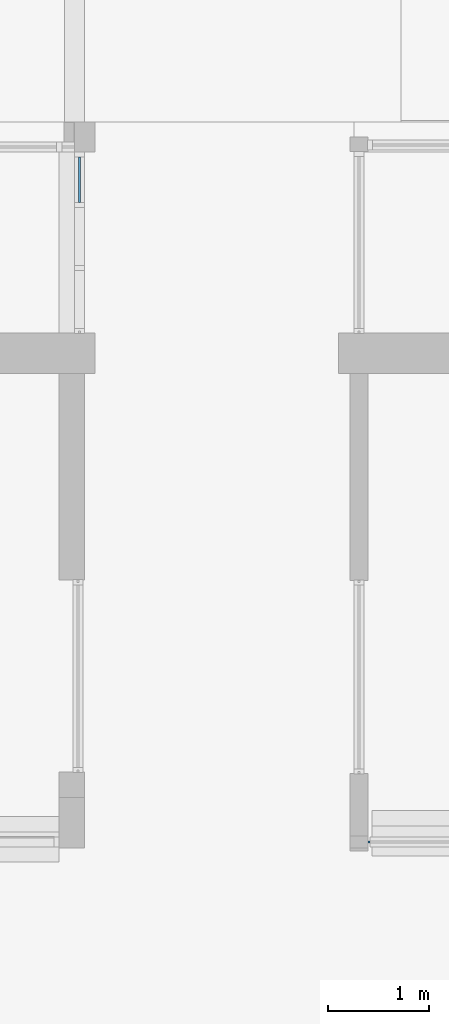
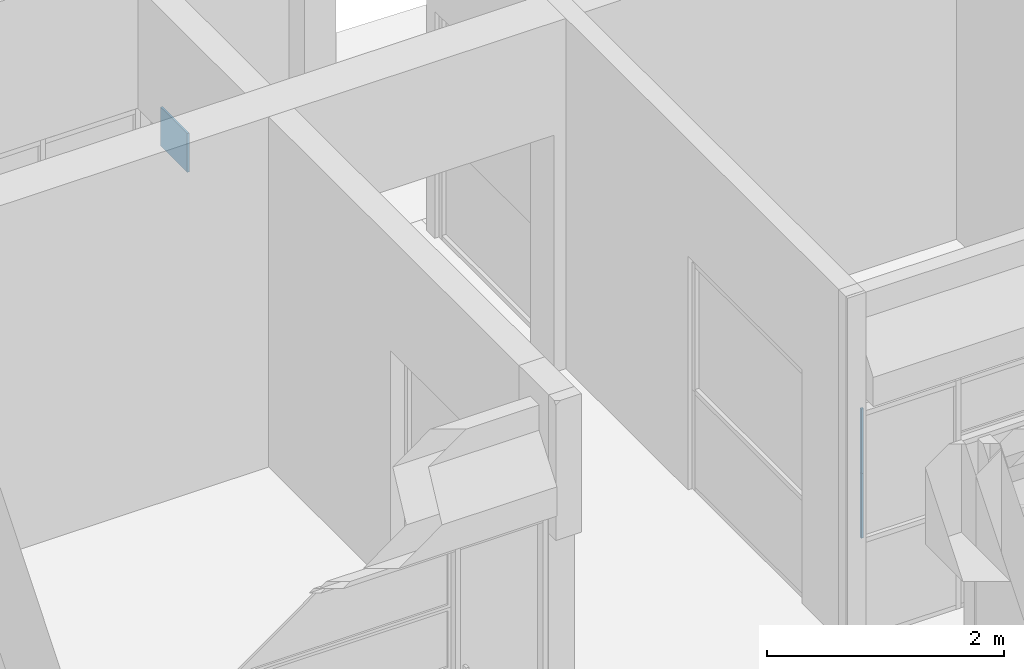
# One storey, part 48 of 117: 3 plates, 2 elements without a shape of their own.
"""IFC4 building model written with IfcOpenShell, lengths in metres."""

from ifc_helpers import new_model, entity, si_unit, converted_unit, derived_unit, direction, frame, origin, place, context, subcontext, project, spatial, indexed_curve, outline, extrude, source, transform, mapped, material, type_object, type_shapes, element, aggregate, save


model = new_model("IFC4")

# Units and contexts
model_context = context("Model", 3, precision=1e-05, world=origin(), true_north=direction((6.123031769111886e-17, 1.0)))
body_context = subcontext(model_context, "Body", "Model", "MODEL_VIEW")
ifc_project = project(units=[si_unit("LENGTHUNIT", "METRE"), si_unit("AREAUNIT", "SQUARE_METRE"), si_unit("VOLUMEUNIT", "CUBIC_METRE"), converted_unit("PLANEANGLEUNIT", "DEGREE", entity("IfcRatioMeasure", 0.017453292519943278), si_unit("PLANEANGLEUNIT", "RADIAN"), dimensions=[0, 0, 0, 0, 0, 0, 0]), si_unit("MASSUNIT", "GRAM", prefix="KILO"), derived_unit("MASSDENSITYUNIT", [(si_unit("MASSUNIT", "GRAM", prefix="KILO"), 1), (si_unit("LENGTHUNIT", "METRE"), -3)]), derived_unit("MOMENTOFINERTIAUNIT", [(si_unit("LENGTHUNIT", "METRE"), 4)]), si_unit("TIMEUNIT", "SECOND"), si_unit("FREQUENCYUNIT", "HERTZ"), si_unit("THERMODYNAMICTEMPERATUREUNIT", "DEGREE_CELSIUS"), derived_unit("THERMALTRANSMITTANCEUNIT", [(si_unit("MASSUNIT", "GRAM", prefix="KILO"), 1), (si_unit("THERMODYNAMICTEMPERATUREUNIT", "KELVIN"), -1), (si_unit("TIMEUNIT", "SECOND"), -3)]), derived_unit("VOLUMETRICFLOWRATEUNIT", [(si_unit("LENGTHUNIT", "METRE"), 3), (si_unit("TIMEUNIT", "SECOND"), -1)]), derived_unit("MASSFLOWRATEUNIT", [(si_unit("MASSUNIT", "GRAM", prefix="KILO"), 1), (si_unit("TIMEUNIT", "SECOND"), -1)]), derived_unit("ROTATIONALFREQUENCYUNIT", [(si_unit("TIMEUNIT", "SECOND"), -1)]), si_unit("ELECTRICCURRENTUNIT", "AMPERE"), si_unit("ELECTRICVOLTAGEUNIT", "VOLT"), si_unit("POWERUNIT", "WATT"), si_unit("FORCEUNIT", "NEWTON", prefix="KILO"), si_unit("ILLUMINANCEUNIT", "LUX"), si_unit("LUMINOUSFLUXUNIT", "LUMEN"), si_unit("LUMINOUSINTENSITYUNIT", "CANDELA"), derived_unit("USERDEFINED", [(si_unit("MASSUNIT", "GRAM", prefix="KILO"), -1), (si_unit("LENGTHUNIT", "METRE"), -2), (si_unit("TIMEUNIT", "SECOND"), 3), (si_unit("LUMINOUSFLUXUNIT", "LUMEN"), 1)]), derived_unit("SOUNDPOWERUNIT", [(si_unit("MASSUNIT", "GRAM", prefix="KILO"), 1), (si_unit("LENGTHUNIT", "METRE"), 2), (si_unit("TIMEUNIT", "SECOND"), -3)]), derived_unit("SOUNDPRESSUREUNIT", [(si_unit("MASSUNIT", "GRAM", prefix="KILO"), 1), (si_unit("LENGTHUNIT", "METRE"), -1), (si_unit("TIMEUNIT", "SECOND"), -2)]), derived_unit("LINEARVELOCITYUNIT", [(si_unit("LENGTHUNIT", "METRE"), 1), (si_unit("TIMEUNIT", "SECOND"), -1)]), si_unit("PRESSUREUNIT", "PASCAL"), derived_unit("USERDEFINED", [(si_unit("LENGTHUNIT", "METRE"), -2), (si_unit("MASSUNIT", "GRAM", prefix="KILO"), 1), (si_unit("TIMEUNIT", "SECOND"), -2)]), derived_unit("LINEARFORCEUNIT", [(si_unit("MASSUNIT", "GRAM", prefix="KILO"), 1), (si_unit("LENGTHUNIT", "METRE"), 1), (si_unit("TIMEUNIT", "SECOND"), -2), (si_unit("LENGTHUNIT", "METRE"), -1)]), derived_unit("PLANARFORCEUNIT", [(si_unit("MASSUNIT", "GRAM", prefix="KILO"), 1), (si_unit("LENGTHUNIT", "METRE"), 1), (si_unit("TIMEUNIT", "SECOND"), -2), (si_unit("LENGTHUNIT", "METRE"), -2)])], contexts=[model_context])

# Site, building, storey
site_placement = place(None, origin())
site = spatial("IfcSite", under=ifc_project, at=site_placement, Name="Superficie", CompositionType="ELEMENT")
building_placement = place(site_placement, origin())
building = spatial("IfcBuilding", under=site, at=building_placement, CompositionType="ELEMENT")
storey_placement = place(building_placement, origin())
storey = spatial("IfcBuildingStorey", under=building, at=storey_placement, Name="Nivel 0", CompositionType="ELEMENT", Elevation=0.0)

# Curtain wall, plates
curtain_wall_type = type_object("IfcCurtainWallType", Name="Muro cortina:Muro cortina - simple", PredefinedType="NOTDEFINED")
curtain_wall_1_placement = place(storey_placement, origin())
curtain_wall_1 = element("IfcCurtainWall", 1, at=curtain_wall_1_placement, inside=storey, type_object=curtain_wall_type, Name="Muro cortina:Muro cortina - simple", ObjectType="Muro cortina:Muro cortina - simple", PredefinedType="NOTDEFINED")
ifc_material = material(Name="Cristal", Category="Vidrio")
plate_type_1 = type_object("IfcPlateType", Name="Panel de sistema:Acristalado", PredefinedType="CURTAIN_PANEL", material=ifc_material)
shared_shape_1 = source(origin(), body_context, "Body", "SweptSolid", [
    extrude(outline(indexed_curve([(-0.01, -0.009999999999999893), (0.01, -0.009999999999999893), (0.01, 0.009999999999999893), (-0.01, 0.009999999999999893), (-0.01, -0.009999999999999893)], self_intersect=False)), frame((0.0, 0.0, 0.0), z_axis=(0.0, 0.0, 1.0), x_axis=(0.0, 1.0, 0.0)), (0.0, 0.0, 1.0), 0.6649999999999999),
])
type_shapes(plate_type_1, [shared_shape_1])
plate_1_placement = place(curtain_wall_1_placement, frame((-15.313200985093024, 5.715829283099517, 1.0200000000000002)))
plate_1 = element("IfcPlate", 2, at=plate_1_placement, type_object=plate_type_1, material=ifc_material, Name="Panel de sistema:Acristalado", ObjectType="Panel de sistema:Acristalado", PredefinedType="CURTAIN_PANEL", context=body_context, shape_type="MappedRepresentation", body=[
    mapped(shared_shape_1, transform((0.0, 0.0, 0.0), scale=1.0)),
])
plate_2_placement = place(curtain_wall_1_placement, frame((-15.313200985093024, 5.715829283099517, 1.685)))
plate_2 = element("IfcPlate", 3, at=plate_2_placement, type_object=plate_type_1, material=ifc_material, Name="Panel de sistema:Acristalado", ObjectType="Panel de sistema:Acristalado", PredefinedType="CURTAIN_PANEL", context=body_context, shape_type="MappedRepresentation", body=[
    mapped(shared_shape_1, transform((0.0, 0.0, 0.0), scale=1.0)),
])
aggregate(curtain_wall_1, [plate_1, plate_2])

# Curtain wall, plate
curtain_wall_2_placement = place(storey_placement, origin())
curtain_wall_2 = element("IfcCurtainWall", 4, at=curtain_wall_2_placement, inside=storey, type_object=curtain_wall_type, Name="Muro cortina:Muro cortina - simple", ObjectType="Muro cortina:Muro cortina - simple", PredefinedType="NOTDEFINED")
plate_type_2 = type_object("IfcPlateType", Name="Panel de sistema:Acristalado", PredefinedType="CURTAIN_PANEL", material=ifc_material)
shared_shape_2 = source(origin(), body_context, "Body", "SweptSolid", [
    extrude(outline(indexed_curve([(-0.01, -0.22429012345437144), (0.01, -0.22429012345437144), (0.01, 0.22429012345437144), (-0.01, 0.22429012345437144), (-0.01, -0.22429012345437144)], self_intersect=False)), frame((0.0, 0.0, 0.0), z_axis=(0.0, 0.0, 1.0), x_axis=(0.0, 1.0, 0.0)), (0.0, 0.0, 1.0), 0.4),
])
type_shapes(plate_type_2, [shared_shape_2])
plate_3_placement = place(curtain_wall_2_placement, frame((-18.193200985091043, 12.296539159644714, 1.93), z_axis=(0.0, 0.0, 1.0), x_axis=(0.0, 1.0, 0.0)))
plate_3 = element("IfcPlate", 5, at=plate_3_placement, type_object=plate_type_2, material=ifc_material, Name="Panel de sistema:Acristalado", ObjectType="Panel de sistema:Acristalado", PredefinedType="CURTAIN_PANEL", context=body_context, shape_type="MappedRepresentation", body=[
    mapped(shared_shape_2, transform((0.0, 0.0, 0.0), scale=1.0)),
])
aggregate(curtain_wall_2, [plate_3])

save(model, "model.ifc")
